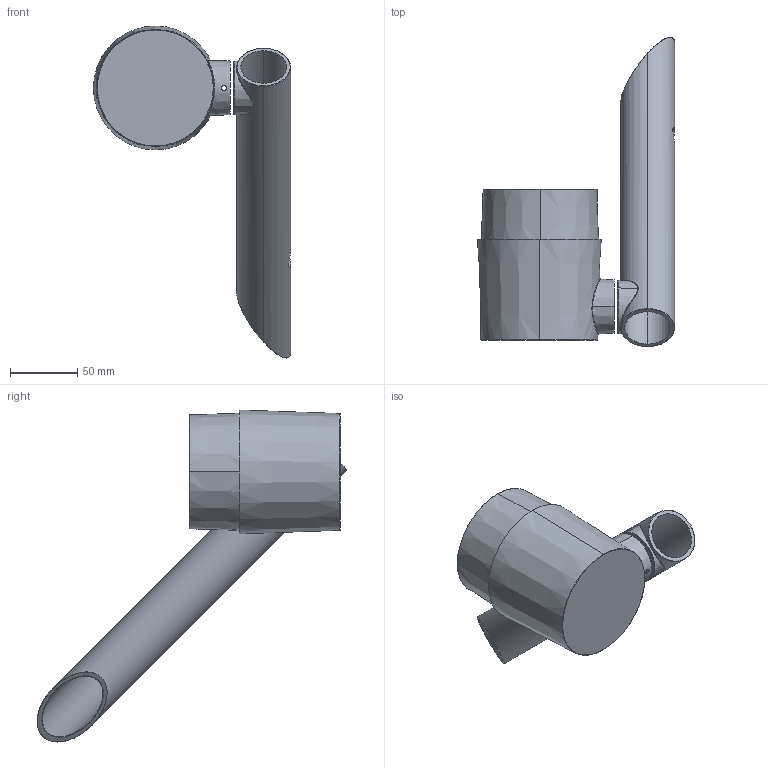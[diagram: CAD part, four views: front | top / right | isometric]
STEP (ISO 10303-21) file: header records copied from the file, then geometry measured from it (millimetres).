
FILE_DESCRIPTION((''),'2;1');
FILE_NAME('ECHO-GARDEN_SW0001','2025-07-30T11:53:54',('Piccioli'),(''),'CREO PARAMETRIC BY PTC INC, 2025010','CREO PARAMETRIC BY PTC INC, 2025010','');
FILE_SCHEMA(('CONFIG_CONTROL_DESIGN'));
Length unit declared in the file: millimetre
Products named in the file (1): ECHO-GARDEN_SW0001
Bounding box: 146.47 x 230.06 x 246.58 mm (x, y, z)
Surface area: 109391.3 mm2 (no closed solid volume)
Topology: 0 solids, 20 shells, 57 faces, 270 edges, 233 vertices
Faces by surface type: cone 29, bspline 8, cylinder 8, plane 6, torus 6
Entity records: 9361 total; most frequent: CARTESIAN_POINT 7450, ORIENTED_EDGE 349, DIRECTION 296, EDGE_CURVE 270, VERTEX_POINT 233, B_SPLINE_CURVE_WITH_KNOTS 157, AXIS2_PLACEMENT_3D 134, EDGE_LOOP 88
